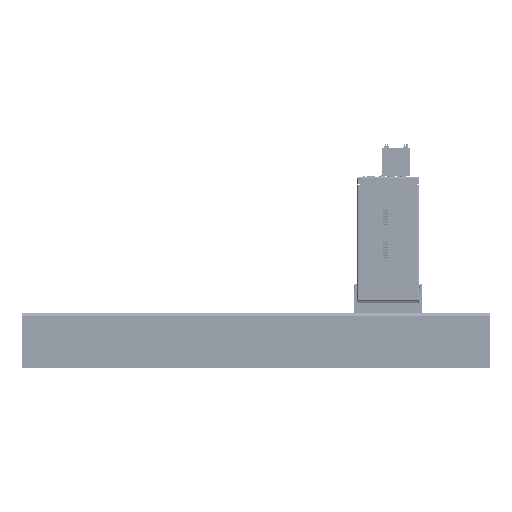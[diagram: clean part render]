
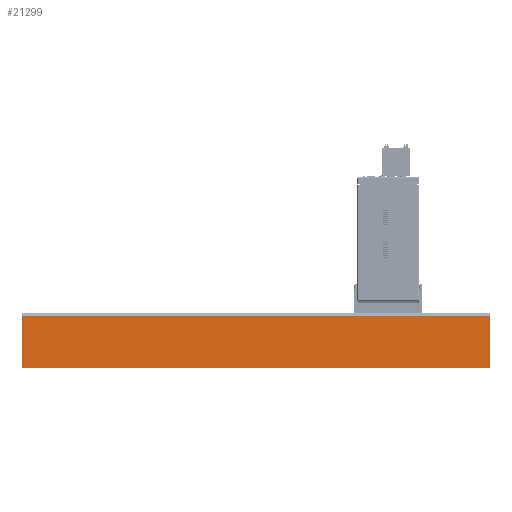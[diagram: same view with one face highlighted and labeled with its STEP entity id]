
A CAD part, left-side view. The second image highlights one B-rep face of the part: STEP entity #21299.
In plain terms, the highlighted planar face has unit normal (-1, 0, 0).
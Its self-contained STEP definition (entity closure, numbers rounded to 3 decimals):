
#11733=PLANE('',#191603);
#21299=ADVANCED_FACE('',(#30757),#11733,.T.);
#30757=FACE_OUTER_BOUND('',#41252,.T.);
#41252=EDGE_LOOP('',(#133103,#133104,#133105,#133106));
#60785=LINE('',#318227,#78841);
#60786=LINE('',#318230,#78842);
#60787=LINE('',#318232,#78843);
#60788=LINE('',#318234,#78844);
#78841=VECTOR('',#238746,1.);
#78842=VECTOR('',#238747,1.);
#78843=VECTOR('',#238748,1.);
#78844=VECTOR('',#238749,1.);
#133103=ORIENTED_EDGE('',*,*,#175556,.T.);
#133104=ORIENTED_EDGE('',*,*,#175557,.F.);
#133105=ORIENTED_EDGE('',*,*,#175558,.T.);
#133106=ORIENTED_EDGE('',*,*,#175559,.F.);
#150494=VERTEX_POINT('',#318228);
#150495=VERTEX_POINT('',#318229);
#150496=VERTEX_POINT('',#318231);
#150497=VERTEX_POINT('',#318233);
#175556=EDGE_CURVE('',#150494,#150495,#60785,.T.);
#175557=EDGE_CURVE('',#150496,#150495,#60786,.T.);
#175558=EDGE_CURVE('',#150496,#150497,#60787,.T.);
#175559=EDGE_CURVE('',#150494,#150497,#60788,.T.);
#191603=AXIS2_PLACEMENT_3D('',#318235,#238750,#238751);
#238746=DIRECTION('',(0.,-1.,0.));
#238747=DIRECTION('',(0.,0.,-1.));
#238748=DIRECTION('',(0.,1.,0.));
#238749=DIRECTION('',(0.,0.,1.));
#238750=DIRECTION('',(-1.,0.,0.));
#238751=DIRECTION('',(0.,0.,1.));
#318227=CARTESIAN_POINT('',(870.05,67.12,-26.5));
#318228=CARTESIAN_POINT('',(870.05,89.26,-26.5));
#318229=CARTESIAN_POINT('',(870.05,-136.74,-26.5));
#318230=CARTESIAN_POINT('',(870.05,-136.74,0.));
#318231=CARTESIAN_POINT('',(870.05,-136.74,-1.1));
#318232=CARTESIAN_POINT('',(870.05,151.369,-1.1));
#318233=CARTESIAN_POINT('',(870.05,89.26,-1.1));
#318234=CARTESIAN_POINT('',(870.05,89.26,-216.212));
#318235=CARTESIAN_POINT('',(870.05,151.369,0.));
